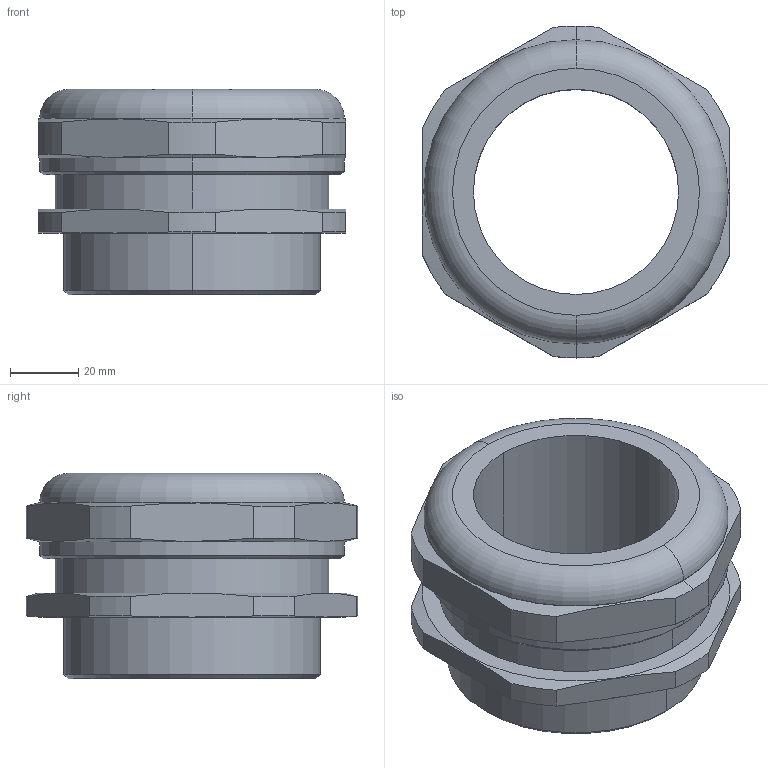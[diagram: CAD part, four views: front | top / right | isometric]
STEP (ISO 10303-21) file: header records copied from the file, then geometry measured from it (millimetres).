
FILE_DESCRIPTION (( 'STEP AP203' ), '1' );
FILE_NAME ('1010M75-2.STEP', '2006-08-11T08:45:52', ( ' ' ), ( '' ), 'SwSTEP 2.0', 'SolidWorks 2005278', '' );
FILE_SCHEMA (( 'CONFIG_CONTROL_DESIGN' ));
Length unit declared in the file: millimetre
Products named in the file (1): 1010M75-2
Bounding box: 90 x 97 x 60 mm (x, y, z)
Volume: 166163.7 mm3; surface area: 37297.2 mm2
Topology: 1 solids, 1 shells, 92 faces, 239 edges, 155 vertices
Faces by surface type: plane 54, cylinder 24, cone 12, torus 2
Entity records: 3009 total; most frequent: CARTESIAN_POINT 665, ORIENTED_EDGE 478, DIRECTION 462, EDGE_CURVE 239, AXIS2_PLACEMENT_3D 156, VERTEX_POINT 155, VECTOR 150, LINE 150
